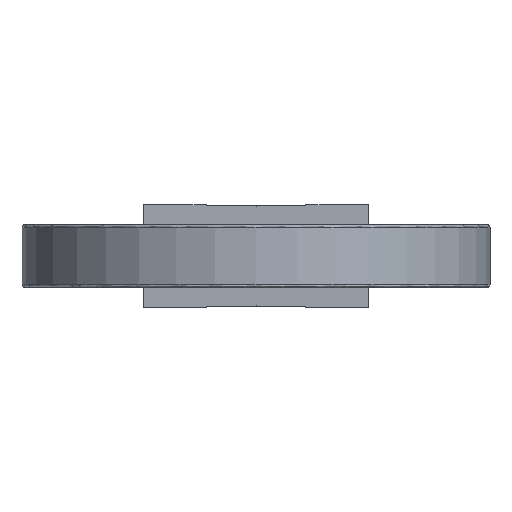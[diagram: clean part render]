
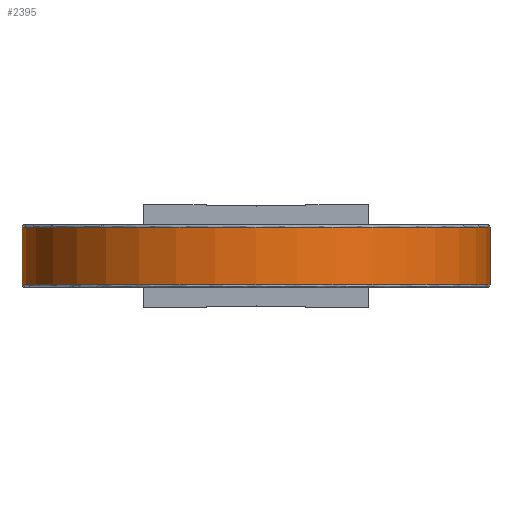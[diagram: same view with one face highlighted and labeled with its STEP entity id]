
A CAD part, front view. The second image highlights one B-rep face of the part: STEP entity #2395.
In plain terms, the highlighted cylindrical face has radius 37.5 mm (diameter 75 mm), a partial arc.
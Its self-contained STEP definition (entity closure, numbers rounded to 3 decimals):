
#150 = ORIENTED_EDGE ( 'NONE', *, *, #3363, .T. ) ;
#152 = CARTESIAN_POINT ( 'NONE',  ( 0., 9.6, -37.5 ) ) ;
#157 = EDGE_CURVE ( 'NONE', #7980, #5354, #3914, .T. ) ;
#185 = FACE_OUTER_BOUND ( 'NONE', #7738, .T. ) ;
#474 = DIRECTION ( 'NONE',  ( 0., 0., -1. ) ) ;
#540 = CARTESIAN_POINT ( 'NONE',  ( 0., 0., -37.5 ) ) ;
#707 = AXIS2_PLACEMENT_3D ( 'NONE', #907, #7935, #1695 ) ;
#775 = AXIS2_PLACEMENT_3D ( 'NONE', #788, #5660, #8480 ) ;
#788 = CARTESIAN_POINT ( 'NONE',  ( 0., 0.4, 0. ) ) ;
#907 = CARTESIAN_POINT ( 'NONE',  ( 0., 0., 0. ) ) ;
#1118 = DIRECTION ( 'NONE',  ( 0., -1., 0. ) ) ;
#1273 = CARTESIAN_POINT ( 'NONE',  ( 0., 0., 37.5 ) ) ;
#1695 = DIRECTION ( 'NONE',  ( 0., 0., -1. ) ) ;
#1938 = LINE ( 'NONE', #1273, #7703 ) ;
#2395 = ADVANCED_FACE ( 'NONE', ( #185 ), #6394, .T. ) ;
#2580 = CARTESIAN_POINT ( 'NONE',  ( 0., 9.6, 0. ) ) ;
#2645 = DIRECTION ( 'NONE',  ( 0., -1., 0. ) ) ;
#3235 = EDGE_CURVE ( 'NONE', #4601, #6937, #5180, .T. ) ;
#3363 = EDGE_CURVE ( 'NONE', #6937, #5354, #5822, .T. ) ;
#3427 = CARTESIAN_POINT ( 'NONE',  ( 0., 0.4, 37.5 ) ) ;
#3914 = CIRCLE ( 'NONE', #775, 37.5 ) ;
#4125 = AXIS2_PLACEMENT_3D ( 'NONE', #2580, #1118, #474 ) ;
#4512 = CARTESIAN_POINT ( 'NONE',  ( 0., 9.6, 37.5 ) ) ;
#4601 = VERTEX_POINT ( 'NONE', #4512 ) ;
#4881 = EDGE_CURVE ( 'NONE', #4601, #7980, #1938, .T. ) ;
#5119 = CARTESIAN_POINT ( 'NONE',  ( 0., 0.4, -37.5 ) ) ;
#5180 = CIRCLE ( 'NONE', #4125, 37.5 ) ;
#5354 = VERTEX_POINT ( 'NONE', #5119 ) ;
#5660 = DIRECTION ( 'NONE',  ( 0., -1., 0. ) ) ;
#5682 = ORIENTED_EDGE ( 'NONE', *, *, #157, .F. ) ;
#5822 = LINE ( 'NONE', #540, #8431 ) ;
#6156 = DIRECTION ( 'NONE',  ( 0., -1., 0. ) ) ;
#6394 = CYLINDRICAL_SURFACE ( 'NONE', #707, 37.5 ) ;
#6937 = VERTEX_POINT ( 'NONE', #152 ) ;
#7427 = ORIENTED_EDGE ( 'NONE', *, *, #4881, .F. ) ;
#7703 = VECTOR ( 'NONE', #6156, 1000. ) ;
#7738 = EDGE_LOOP ( 'NONE', ( #7427, #8624, #150, #5682 ) ) ;
#7935 = DIRECTION ( 'NONE',  ( 0., -1., 0. ) ) ;
#7980 = VERTEX_POINT ( 'NONE', #3427 ) ;
#8431 = VECTOR ( 'NONE', #2645, 1000. ) ;
#8480 = DIRECTION ( 'NONE',  ( 0., 0., -1. ) ) ;
#8624 = ORIENTED_EDGE ( 'NONE', *, *, #3235, .T. ) ;
